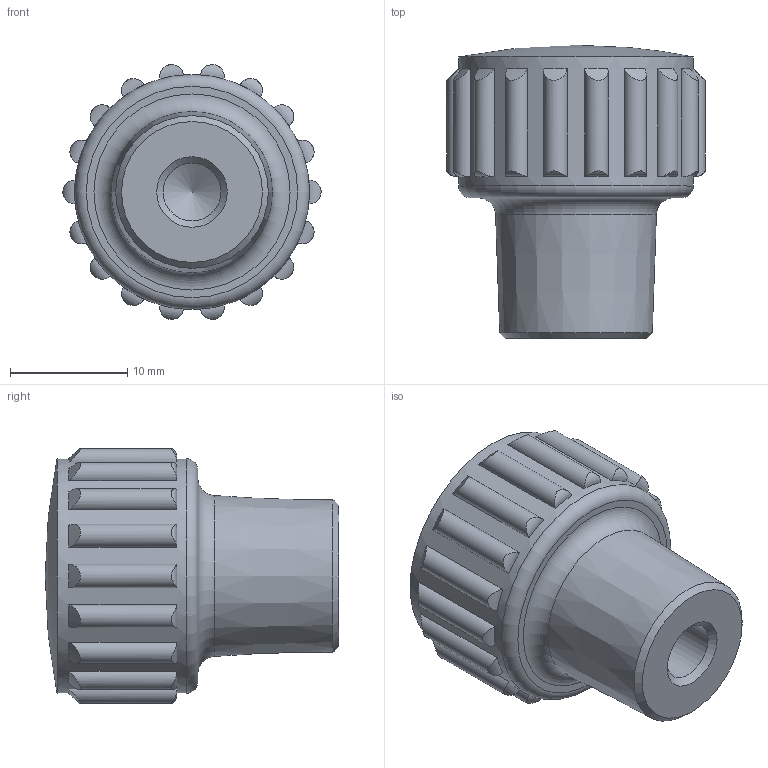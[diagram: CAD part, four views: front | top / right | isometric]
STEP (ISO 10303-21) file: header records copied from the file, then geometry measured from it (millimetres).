
FILE_DESCRIPTION( ( 'STEP AP203' ), '1' );
FILE_NAME( 'C:/Temp/Ganter_Step_05_03_2020/data/2_2/gn_530_1/Knurled nut GN 530.1-22-M6-WS.stp', '2020-03-05T12:34:23', ( 'License CC BY-ND 4.0' ), ( 'CADENAS' ), ' ', 'PARTsolutions', ' ' );
FILE_SCHEMA( ( 'CONFIG_CONTROL_DESIGN' ) );
Length unit declared in the file: millimetre
Products named in the file (1): _Knurled nut GN 530.1-22-M6-WS
Bounding box: 22 x 25 x 21.7 mm (x, y, z)
Volume: 5584.7 mm3; surface area: 2259.3 mm2
Topology: 1 solids, 1 shells, 65 faces, 132 edges, 86 vertices
Faces by surface type: cone 22, cylinder 20, torus 20, plane 2, sphere 1
Full cylindrical faces by diameter (mm): 4.917 x1, 20 x1
Entity records: 2246 total; most frequent: CARTESIAN_POINT 916, DIRECTION 260, ORIENTED_EDGE 236, EDGE_CURVE 118, AXIS2_PLACEMENT_3D 112, EDGE_LOOP 92, VERTEX_POINT 84, FACE_OUTER_BOUND 69
